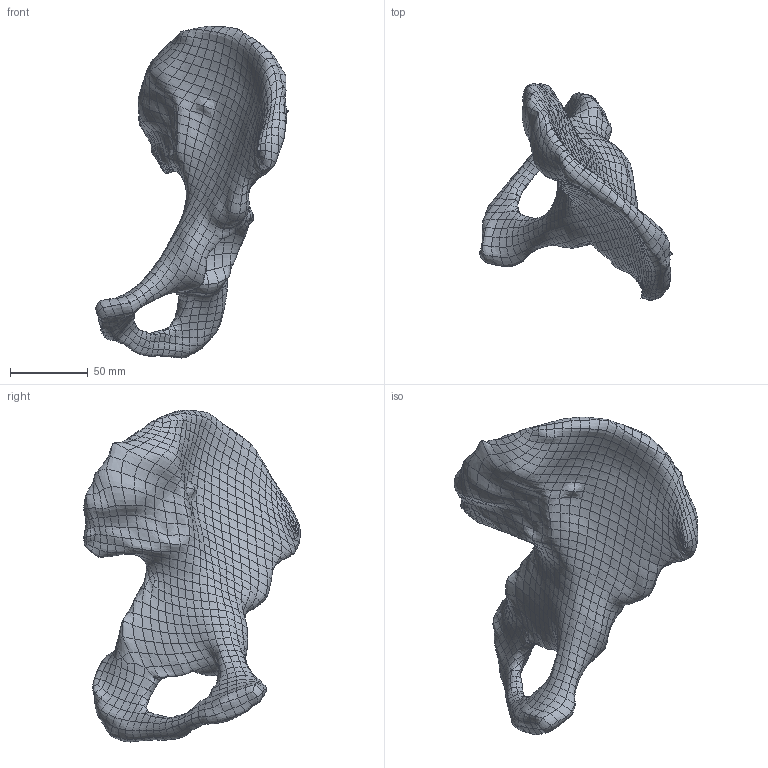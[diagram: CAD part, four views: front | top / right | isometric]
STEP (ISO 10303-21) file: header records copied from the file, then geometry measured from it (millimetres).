
FILE_DESCRIPTION(('Open CASCADE Model'),'2;1');
FILE_NAME('Open CASCADE Shape Model','2026-10-24T17:19:06',('Author'),( 'Open CASCADE'),'Open CASCADE STEP processor 7.8','Open CASCADE 7.8' ,'Unknown');
FILE_SCHEMA(('AUTOMOTIVE_DESIGN { 1 0 10303 214 1 1 1 1 }'));
Products named in the file (1): Open CASCADE STEP translator 7.8 2
Bounding box: 124.17 x 139.89 x 214.09 mm (x, y, z)
Volume: 362485.6 mm3; surface area: 59241.4 mm2
Topology: 1 solids, 1 shells, 1856 faces, 3712 edges, 1856 vertices
Faces by surface type: bspline 1856
Entity records: 117004 total; most frequent: CARTESIAN_POINT 55623, ORIENTED_EDGE 7424, PCURVE 7424, DEFINITIONAL_REPRESENTATION 7424, DIRECTION 5628, LINE 5626, VECTOR 5626, B_SPLINE_CURVE_WITH_KNOTS 5510
